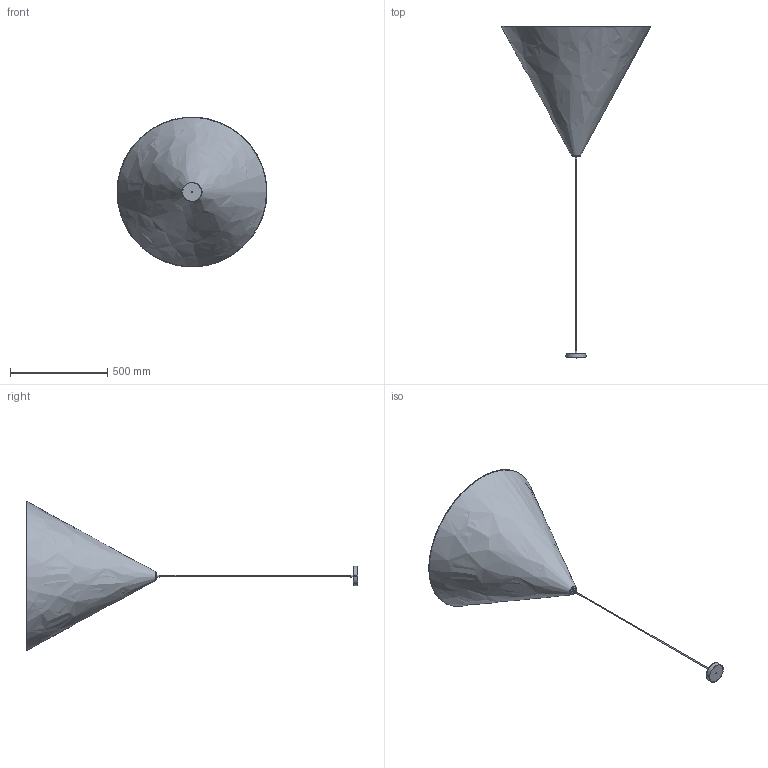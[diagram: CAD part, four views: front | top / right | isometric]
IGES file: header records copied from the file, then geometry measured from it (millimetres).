
Global section: file name: G:\\_Liczy si\X2\0119\X0\ s\X2\0142\X0\owo\\_Modelowanie SIGMA\\VESUVIO\\paczka\\VESUVIO.igs; native system: HarmonyWare Translators; preprocessor: HarmonyWare IGES v2.1.4; date: 20241007.093703; units: centimetre
Bounding box: 769.95 x 1704 x 768.67 mm (x, y, z)
Volume: 3085668 mm3; surface area: 2035285.6 mm2
Topology: 20 solids, 20 shells, 169 faces, 359 edges, 232 vertices
Faces by surface type: bspline 169
